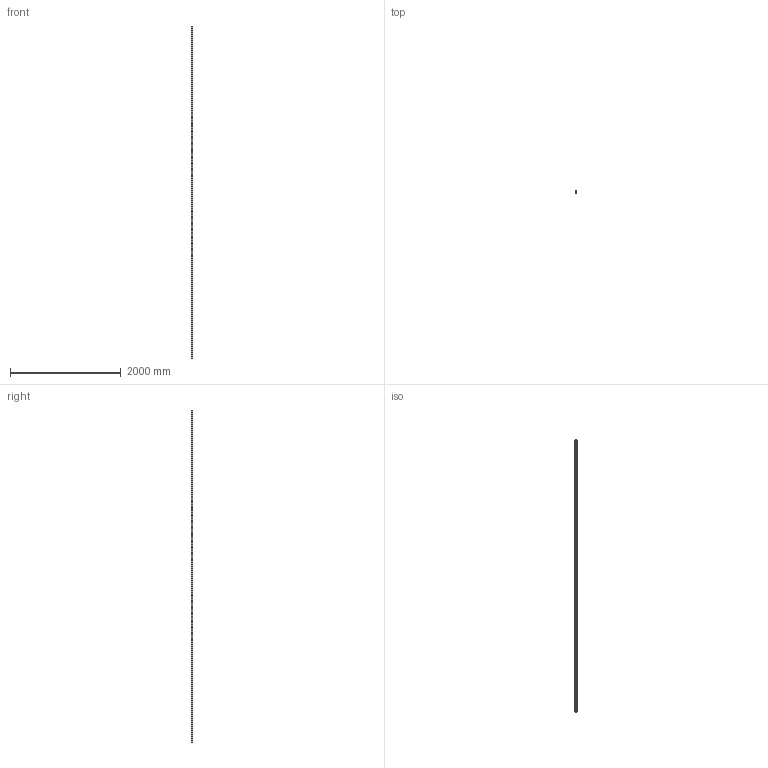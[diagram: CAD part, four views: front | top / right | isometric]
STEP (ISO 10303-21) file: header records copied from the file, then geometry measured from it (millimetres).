
FILE_DESCRIPTION (( 'STEP AP214' ), '1' );
FILE_NAME ('35x35 Slot 8 100mm.STEP', '2017-08-05T19:45:28', ( 'Ahmed' ), ( '' ), 'SwSTEP 2.0', 'SolidWorks 2016', '' );
FILE_SCHEMA (( 'AUTOMOTIVE_DESIGN' ));
Length unit declared in the file: millimetre
Products named in the file (2): 35x35 Slot 8 100mm
Bounding box: 35 x 35 x 6000 mm (x, y, z)
Volume: 2295025.4 mm3; surface area: 2446889.1 mm2
Topology: 1 solids, 1 shells, 206 faces, 591 edges, 394 vertices
Faces by surface type: plane 148, cylinder 32, bspline 26
Entity records: 8524 total; most frequent: CARTESIAN_POINT 3171, ORIENTED_EDGE 1182, DIRECTION 967, EDGE_CURVE 591, LINE 475, VECTOR 475, VERTEX_POINT 394, AXIS2_PLACEMENT_3D 246
